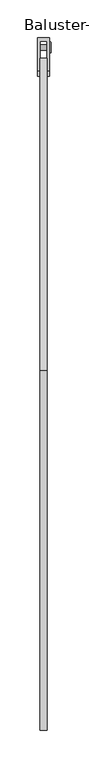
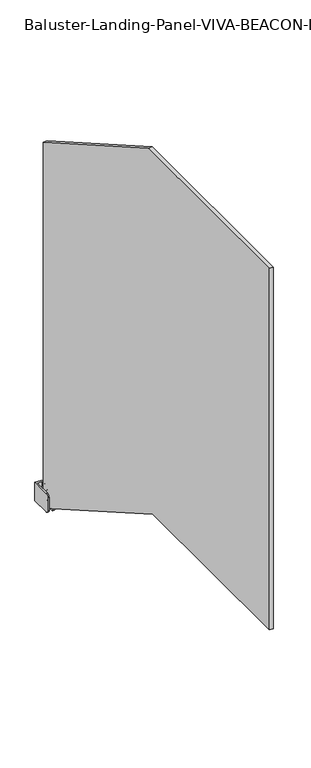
"""IFC4 building model written with IfcOpenShell, lengths in millimetres: railing geometry, Baluster-Landing-Panel-VIVA-BEACON-Lower : Standard_Glass."""

from ifc_helpers import new_model, si_unit, point, frame, origin, place, context, project, spatial, polyline, circle_curve, ellipse_curve, trimmed, outline, extrude, source, transform, mapped, element, save
from ifc_brep_helpers import plane_surface, cylinder_surface, revolved_surface, advanced_brep


def baluster_landing_panel_viva_beacon_lower_standard_glass_e261c89c(model_context):
    return source(origin(), model_context, "Body", "SolidModel", [
        advanced_brep(
        [(33.3375, 17.8996011, -21.377275), (46.0375, 17.8996011, -21.377275), (46.0375, 10.8087093, -21.377275), (33.3375, 10.8087093, -21.377275), (46.0375, 21.7619443, -21.377275), (46.0375, 6.9463661, -21.377275), (46.904612, 16.0102306, -21.377275), (33.3375, 16.0102306, -21.377275), (33.3375, 12.6980798, -21.377275), (46.904612, 12.6980798, -21.377275), (46.8723449, 21.7619443, -21.377275), (48.1536169, 20.4806723, -21.377275), (48.1536169, 8.2276382, -21.377275), (46.8723449, 6.9463661, -21.377275), (48.1536169, 18.6527508, -21.377275), (48.1536169, 10.0555597, -21.377275), (46.904612, 18.6527508, -21.377275), (46.904612, 10.0555597, -21.377275)],
        [
            (0, 1),
            (1, 2, circle_curve(frame((46.0375, 14.3541552, -21.377275), z_axis=(-1.0, 0.0, 0.0), x_axis=(0.0, -1.0, 0.0)), 3.5454459)),
            (2, 3),
            (3, 0, circle_curve(frame((33.3375, 14.3541552, -21.377275), z_axis=(1.0, 0.0, 0.0), x_axis=(0.0, -1.0, 0.0)), 3.5454459)),
            (2, 1, circle_curve(frame((46.0375, 14.3541552, -21.377275), z_axis=(-1.0, 0.0, 0.0), x_axis=(0.0, -1.0, 0.0)), 3.5454459)),
            (0, 3, circle_curve(frame((33.3375, 14.3541552, -21.377275), z_axis=(1.0, 0.0, 0.0), x_axis=(0.0, -1.0, 0.0)), 3.5454459)),
            (1, 4),
            (4, 5, circle_curve(frame((46.0375, 14.3541552, -21.377275), z_axis=(-1.0, 0.0, 0.0), x_axis=(0.0, -1.0, 0.0)), 7.4077891)),
            (5, 2),
            (5, 4, circle_curve(frame((46.0375, 14.3541552, -21.377275), z_axis=(-1.0, 0.0, 0.0), x_axis=(0.0, -1.0, 0.0)), 7.4077891)),
            (6, 7),
            (7, 8, circle_curve(frame((33.3375, 14.3541552, -21.377275), z_axis=(-1.0, 0.0, 0.0), x_axis=(0.0, -1.0, 0.0)), 1.6560754)),
            (8, 9),
            (9, 6, circle_curve(frame((46.904612, 14.3541552, -21.377275), z_axis=(1.0, 0.0, 0.0), x_axis=(0.0, -1.0, 0.0)), 1.6560754)),
            (8, 7, circle_curve(frame((33.3375, 14.3541552, -21.377275), z_axis=(-1.0, 0.0, 0.0), x_axis=(0.0, -1.0, 0.0)), 1.6560754)),
            (6, 9, circle_curve(frame((46.904612, 14.3541552, -21.377275), z_axis=(1.0, 0.0, 0.0), x_axis=(0.0, -1.0, 0.0)), 1.6560754)),
            (10, 11, circle_curve(frame((46.8723449, 20.4806723, -21.377275), z_axis=(0.0, 0.0, -1.0), x_axis=(0.0, 1.0, 0.0)), 1.281272)),
            (11, 12, circle_curve(frame((48.1536169, 14.3541552, -21.377275), z_axis=(-1.0, 0.0, 0.0), x_axis=(0.0, -1.0, 0.0)), 6.1265171)),
            (12, 13, circle_curve(frame((46.8723449, 8.2276382, -21.377275), z_axis=(0.0, 0.0, -1.0), x_axis=(0.0, -1.0, 0.0)), 1.281272)),
            (13, 10, circle_curve(frame((46.8723449, 14.3541552, -21.377275), z_axis=(1.0, 0.0, 0.0), x_axis=(0.0, -1.0, 0.0)), 7.4077891)),
            (12, 11, circle_curve(frame((48.1536169, 14.3541552, -21.377275), z_axis=(-1.0, 0.0, 0.0), x_axis=(0.0, -1.0, 0.0)), 6.1265171)),
            (10, 13, circle_curve(frame((46.8723449, 14.3541552, -21.377275), z_axis=(1.0, 0.0, 0.0), x_axis=(0.0, -1.0, 0.0)), 7.4077891)),
            (11, 14),
            (14, 15, circle_curve(frame((48.1536169, 14.3541552, -21.377275), z_axis=(-1.0, 0.0, 0.0), x_axis=(0.0, -1.0, 0.0)), 4.2985955)),
            (15, 12),
            (15, 14, circle_curve(frame((48.1536169, 14.3541552, -21.377275), z_axis=(-1.0, 0.0, 0.0), x_axis=(0.0, -1.0, 0.0)), 4.2985955)),
            (4, 10),
            (13, 5),
            (7, 0),
            (3, 8),
            (14, 16),
            (16, 17, circle_curve(frame((46.904612, 14.3541552, -21.377275), z_axis=(-1.0, 0.0, 0.0), x_axis=(0.0, -1.0, 0.0)), 4.2985955)),
            (17, 15),
            (17, 16, circle_curve(frame((46.904612, 14.3541552, -21.377275), z_axis=(-1.0, 0.0, 0.0), x_axis=(0.0, -1.0, 0.0)), 4.2985955)),
            (16, 6),
            (9, 17),
        ],
        [
            cylinder_surface(frame((42.5407669, 14.3541552, -21.377275), z_axis=(-1.0, 0.0, 0.0), x_axis=(0.0, -1.0, 0.0)), 3.5454459),
            plane_surface(frame((46.0375, 14.3541552, -21.377275), z_axis=(-1.0, 0.0, 0.0), x_axis=(0.0, -1.0, 0.0))),
            revolved_surface(polyline([(33.3375, 12.698079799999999, -21.377275), (46.904612, 12.698079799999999, -21.377275)]), (42.5407669, 14.3541552, -21.377275), (-1.0, 0.0, 0.0)),
            revolved_surface(trimmed(ellipse_curve(frame((46.8723449, 8.2276382, -21.377275), z_axis=(0.0, 0.0, -1.0), x_axis=(0.0, -1.0, 0.0)), 1.281272, 1.281272), [point((48.1536169, 8.2276382, -21.377275))], [point((46.8723449, 6.9463661, -21.377275))], True, "CARTESIAN"), (42.5407669, 14.3541552, -21.377275), (-1.0, 0.0, 0.0)),
            plane_surface(frame((48.1536169, 14.3541552, -21.377275), z_axis=(1.0, 0.0, 0.0), x_axis=(0.0, -1.0, 0.0))),
            cylinder_surface(frame((42.5407669, 14.3541552, -21.377275), z_axis=(-1.0, 0.0, 0.0), x_axis=(0.0, -1.0, 0.0)), 7.4077891),
            plane_surface(frame((33.3375, 14.3541552, -21.377275), z_axis=(-1.0, 0.0, 0.0), x_axis=(0.0, -1.0, 0.0))),
            revolved_surface(polyline([(46.904612, 10.0555597, -21.377275), (48.1536169, 10.0555597, -21.377275)]), (42.5407669, 14.3541552, -21.377275), (-1.0, 0.0, 0.0)),
            plane_surface(frame((46.904612, 14.3541552, -21.377275), z_axis=(1.0, 0.0, 0.0), x_axis=(0.0, -1.0, 0.0))),
        ],
        [
            (0, [[1, 2, 3, 4]]),
            (0, [[-3, 5, -1, 6]]),
            (1, [[7, 8, 9, -2]]),
            (1, [[-9, 10, -7, -5]]),
            (2, [[11, 12, 13, 14]]),
            (2, [[-13, 15, -11, 16]]),
            (3, [[17, 18, 19, 20]]),
            (3, [[-19, 21, -17, 22]]),
            (4, [[23, 24, 25, -18]]),
            (4, [[-25, 26, -23, -21]]),
            (5, [[27, -20, 28, -8]]),
            (5, [[-28, -22, -27, -10]]),
            (6, [[29, -4, 30, -12]]),
            (6, [[-30, -6, -29, -15]]),
            (7, [[31, 32, 33, -24]]),
            (7, [[-33, 34, -31, -26]]),
            (8, [[35, -14, 36, -32]]),
            (8, [[-36, -16, -35, -34]]),
        ],
    ),
        advanced_brep(
        [(33.3375, 17.8996011, -45.983525), (46.0375, 17.8996011, -45.983525), (46.0375, 10.8087093, -45.983525), (33.3375, 10.8087093, -45.983525), (46.0375, 21.7619443, -45.983525), (46.0375, 6.9463661, -45.983525), (46.904612, 16.0102306, -45.983525), (33.3375, 16.0102306, -45.983525), (33.3375, 12.6980798, -45.983525), (46.904612, 12.6980798, -45.983525), (46.8723449, 21.7619443, -45.983525), (48.1536169, 20.4806723, -45.983525), (48.1536169, 8.2276382, -45.983525), (46.8723449, 6.9463661, -45.983525), (48.1536169, 18.6527508, -45.983525), (48.1536169, 10.0555597, -45.983525), (46.904612, 18.6527508, -45.983525), (46.904612, 10.0555597, -45.983525)],
        [
            (0, 1),
            (1, 2, circle_curve(frame((46.0375, 14.3541552, -45.983525), z_axis=(-1.0, 0.0, 0.0), x_axis=(0.0, -1.0, 0.0)), 3.5454459)),
            (2, 3),
            (3, 0, circle_curve(frame((33.3375, 14.3541552, -45.983525), z_axis=(1.0, 0.0, 0.0), x_axis=(0.0, -1.0, 0.0)), 3.5454459)),
            (2, 1, circle_curve(frame((46.0375, 14.3541552, -45.983525), z_axis=(-1.0, 0.0, 0.0), x_axis=(0.0, -1.0, 0.0)), 3.5454459)),
            (0, 3, circle_curve(frame((33.3375, 14.3541552, -45.983525), z_axis=(1.0, 0.0, 0.0), x_axis=(0.0, -1.0, 0.0)), 3.5454459)),
            (1, 4),
            (4, 5, circle_curve(frame((46.0375, 14.3541552, -45.983525), z_axis=(-1.0, 0.0, 0.0), x_axis=(0.0, -1.0, 0.0)), 7.4077891)),
            (5, 2),
            (5, 4, circle_curve(frame((46.0375, 14.3541552, -45.983525), z_axis=(-1.0, 0.0, 0.0), x_axis=(0.0, -1.0, 0.0)), 7.4077891)),
            (6, 7),
            (7, 8, circle_curve(frame((33.3375, 14.3541552, -45.983525), z_axis=(-1.0, 0.0, 0.0), x_axis=(0.0, -1.0, 0.0)), 1.6560754)),
            (8, 9),
            (9, 6, circle_curve(frame((46.904612, 14.3541552, -45.983525), z_axis=(1.0, 0.0, 0.0), x_axis=(0.0, -1.0, 0.0)), 1.6560754)),
            (8, 7, circle_curve(frame((33.3375, 14.3541552, -45.983525), z_axis=(-1.0, 0.0, 0.0), x_axis=(0.0, -1.0, 0.0)), 1.6560754)),
            (6, 9, circle_curve(frame((46.904612, 14.3541552, -45.983525), z_axis=(1.0, 0.0, 0.0), x_axis=(0.0, -1.0, 0.0)), 1.6560754)),
            (10, 11, circle_curve(frame((46.8723449, 20.4806723, -45.983525), z_axis=(0.0, 0.0, -1.0), x_axis=(0.0, 1.0, 0.0)), 1.281272)),
            (11, 12, circle_curve(frame((48.1536169, 14.3541552, -45.983525), z_axis=(-1.0, 0.0, 0.0), x_axis=(0.0, -1.0, 0.0)), 6.1265171)),
            (12, 13, circle_curve(frame((46.8723449, 8.2276382, -45.983525), z_axis=(0.0, 0.0, -1.0), x_axis=(0.0, -1.0, 0.0)), 1.281272)),
            (13, 10, circle_curve(frame((46.8723449, 14.3541552, -45.983525), z_axis=(1.0, 0.0, 0.0), x_axis=(0.0, -1.0, 0.0)), 7.4077891)),
            (12, 11, circle_curve(frame((48.1536169, 14.3541552, -45.983525), z_axis=(-1.0, 0.0, 0.0), x_axis=(0.0, -1.0, 0.0)), 6.1265171)),
            (10, 13, circle_curve(frame((46.8723449, 14.3541552, -45.983525), z_axis=(1.0, 0.0, 0.0), x_axis=(0.0, -1.0, 0.0)), 7.4077891)),
            (11, 14),
            (14, 15, circle_curve(frame((48.1536169, 14.3541552, -45.983525), z_axis=(-1.0, 0.0, 0.0), x_axis=(0.0, -1.0, 0.0)), 4.2985955)),
            (15, 12),
            (15, 14, circle_curve(frame((48.1536169, 14.3541552, -45.983525), z_axis=(-1.0, 0.0, 0.0), x_axis=(0.0, -1.0, 0.0)), 4.2985955)),
            (7, 0),
            (3, 8),
            (4, 10),
            (13, 5),
            (14, 16),
            (16, 17, circle_curve(frame((46.904612, 14.3541552, -45.983525), z_axis=(-1.0, 0.0, 0.0), x_axis=(0.0, -1.0, 0.0)), 4.2985955)),
            (17, 15),
            (17, 16, circle_curve(frame((46.904612, 14.3541552, -45.983525), z_axis=(-1.0, 0.0, 0.0), x_axis=(0.0, -1.0, 0.0)), 4.2985955)),
            (16, 6),
            (9, 17),
        ],
        [
            cylinder_surface(frame((42.5407669, 14.3541552, -45.983525), z_axis=(-1.0, 0.0, 0.0), x_axis=(0.0, -1.0, 0.0)), 3.5454459),
            plane_surface(frame((46.0375, 14.3541552, -45.983525), z_axis=(-1.0, 0.0, 0.0), x_axis=(0.0, -1.0, 0.0))),
            revolved_surface(polyline([(33.3375, 12.698079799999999, -45.983525), (46.904612, 12.698079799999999, -45.983525)]), (42.5407669, 14.3541552, -45.983525), (-1.0, 0.0, 0.0)),
            revolved_surface(trimmed(ellipse_curve(frame((46.8723449, 8.2276382, -45.983525), z_axis=(0.0, 0.0, -1.0), x_axis=(0.0, -1.0, 0.0)), 1.281272, 1.281272), [point((48.1536169, 8.2276382, -45.983525))], [point((46.8723449, 6.9463661, -45.983525))], True, "CARTESIAN"), (42.5407669, 14.3541552, -45.983525), (-1.0, 0.0, 0.0)),
            plane_surface(frame((48.1536169, 14.3541552, -45.983525), z_axis=(1.0, 0.0, 0.0), x_axis=(0.0, -1.0, 0.0))),
            plane_surface(frame((33.3375, 14.3541552, -45.983525), z_axis=(-1.0, 0.0, 0.0), x_axis=(0.0, -1.0, 0.0))),
            cylinder_surface(frame((42.5407669, 14.3541552, -45.983525), z_axis=(-1.0, 0.0, 0.0), x_axis=(0.0, -1.0, 0.0)), 7.4077891),
            revolved_surface(polyline([(46.904612, 10.0555597, -45.983525), (48.1536169, 10.0555597, -45.983525)]), (42.5407669, 14.3541552, -45.983525), (-1.0, 0.0, 0.0)),
            plane_surface(frame((46.904612, 14.3541552, -45.983525), z_axis=(1.0, 0.0, 0.0), x_axis=(0.0, -1.0, 0.0))),
        ],
        [
            (0, [[1, 2, 3, 4]]),
            (0, [[-3, 5, -1, 6]]),
            (1, [[7, 8, 9, -2]]),
            (1, [[-9, 10, -7, -5]]),
            (2, [[11, 12, 13, 14]]),
            (2, [[-13, 15, -11, 16]]),
            (3, [[17, 18, 19, 20]]),
            (3, [[-19, 21, -17, 22]]),
            (4, [[23, 24, 25, -18]]),
            (4, [[-25, 26, -23, -21]]),
            (5, [[27, -4, 28, -12]]),
            (5, [[-28, -6, -27, -15]]),
            (6, [[29, -20, 30, -8]]),
            (6, [[-30, -22, -29, -10]]),
            (7, [[31, 32, 33, -24]]),
            (7, [[-33, 34, -31, -26]]),
            (8, [[35, -14, 36, -32]]),
            (8, [[-36, -16, -35, -34]]),
        ],
    ),
        extrude(outline(polyline([(18.4480835, -45.983525), (16.4011194, -49.5289709), (12.3071911, -49.5289709), (10.2602269, -45.983525), (12.3071911, -42.4380791), (16.4011194, -42.4380791), (18.4480835, -45.983525)])), frame((46.904612, 0.0, 0.0), z_axis=(1.0, 0.0, 0.0), x_axis=(0.0, 1.0, 0.0)), (0.0, 0.0, 1.0), 1.4969696),
        advanced_brep(
        [(46.0375, 26.9875, -11.4554), (46.0375, -17.4625, -11.4554), (46.0375, -23.8125, -17.8054), (46.0375, -23.8125, -49.5554), (46.0375, -17.4625, -55.9054), (46.0375, 26.9875, -55.9054), (30.1625, 26.9875, -11.4554), (30.1625, 26.9875, -55.9054), (30.1625, -17.4625, -55.9054), (30.1625, -23.8125, -49.5554), (30.1625, -23.8125, -17.8054), (30.1625, -17.4625, -11.4554), (42.8625, -17.4625, -55.9054), (42.8625, 22.2694196, -55.9054), (33.3375, 22.2694196, -55.9054), (33.3375, -17.4625, -55.9054), (42.8625, 22.2694196, -11.4554), (33.3375, 22.2694196, -11.4554), (42.8625, -23.8125, -49.5554), (42.8625, -23.8125, -17.8054), (42.8625, -17.4625, -11.4554), (33.3375, -17.4625, -11.4554), (33.3375, -23.8125, -17.8054), (33.3375, -23.8125, -49.5554)],
        [
            (0, 1),
            (1, 2, circle_curve(frame((46.0375, -17.4625, -17.8054), z_axis=(1.0, 0.0, 0.0), x_axis=(0.0, -1.0, 0.0)), 6.35)),
            (2, 3),
            (3, 4, circle_curve(frame((46.0375, -17.4625, -49.5554), z_axis=(1.0, 0.0, 0.0), x_axis=(0.0, -1.0, 0.0)), 6.35)),
            (4, 5),
            (5, 0),
            (6, 7),
            (7, 8),
            (8, 9, circle_curve(frame((30.1625, -17.4625, -49.5554), z_axis=(-1.0, 0.0, 0.0), x_axis=(0.0, -1.0, 0.0)), 6.35)),
            (9, 10),
            (10, 11, circle_curve(frame((30.1625, -17.4625, -17.8054), z_axis=(-1.0, 0.0, 0.0), x_axis=(0.0, -1.0, 0.0)), 6.35)),
            (11, 6),
            (5, 7),
            (6, 0),
            (4, 12),
            (12, 13),
            (13, 14),
            (14, 15),
            (15, 8),
            (13, 16),
            (16, 17),
            (17, 14),
            (12, 18, circle_curve(frame((42.8625, -17.4625, -49.5554), z_axis=(-1.0, 0.0, 0.0), x_axis=(0.0, -1.0, 0.0)), 6.35)),
            (18, 19),
            (19, 20, circle_curve(frame((42.8625, -17.4625, -17.8054), z_axis=(-1.0, 0.0, 0.0), x_axis=(0.0, -1.0, 0.0)), 6.35)),
            (20, 16),
            (17, 21),
            (21, 22, circle_curve(frame((33.3375, -17.4625, -17.8054), z_axis=(1.0, 0.0, 0.0), x_axis=(0.0, -1.0, 0.0)), 6.35)),
            (22, 23),
            (23, 15, circle_curve(frame((33.3375, -17.4625, -49.5554), z_axis=(1.0, 0.0, 0.0), x_axis=(0.0, -1.0, 0.0)), 6.35)),
            (23, 9),
            (3, 18),
            (22, 10),
            (2, 19),
            (21, 11),
            (1, 20),
        ],
        [
            plane_surface(frame((46.0375, 26.9875, -55.9054), z_axis=(1.0, 0.0, 0.0), x_axis=(0.0, 0.0, -1.0))),
            plane_surface(frame((30.1625, 26.9875, -55.9054), z_axis=(-1.0, 0.0, 0.0), x_axis=(0.0, 0.0, 1.0))),
            plane_surface(frame((46.0375, 26.9875, -11.4554), z_axis=(0.0, 1.0, 0.0), x_axis=(-1.0, 0.0, 0.0))),
            plane_surface(frame((46.0375, 26.9875, -55.9054), z_axis=(0.0, 0.0, -1.0), x_axis=(-1.0, 0.0, 0.0))),
            plane_surface(frame((33.3375, 22.2694196, 1.2446), z_axis=(0.0, -1.0, 0.0), x_axis=(0.0, 0.0, -1.0))),
            plane_surface(frame((42.8625, 22.2694196, 1.2446), z_axis=(-1.0, 0.0, 0.0), x_axis=(0.0, 0.0, -1.0))),
            plane_surface(frame((33.3375, -36.5125, 1.2446), z_axis=(1.0, 0.0, 0.0), x_axis=(0.0, 0.0, -1.0))),
            cylinder_surface(frame((30.1625, -17.4625, -49.5554), z_axis=(1.0, 0.0, 0.0), x_axis=(0.0, -1.0, 0.0)), 6.35),
            plane_surface(frame((46.0375, -23.8125, -49.5554), z_axis=(0.0, -1.0, 0.0), x_axis=(-1.0, 0.0, 0.0))),
            cylinder_surface(frame((30.1625, -17.4625, -17.8054), z_axis=(1.0, 0.0, 0.0), x_axis=(0.0, -1.0, 0.0)), 6.35),
            plane_surface(frame((46.0375, -17.4625, -11.4554), z_axis=(0.0, 0.0, 1.0), x_axis=(-1.0, 0.0, 0.0))),
        ],
        [
            (0, [[1, 2, 3, 4, 5, 6]]),
            (1, [[7, 8, 9, 10, 11, 12]]),
            (2, [[13, -7, 14, -6]]),
            (3, [[15, 16, 17, 18, 19, -8, -13, -5]]),
            (4, [[-17, 20, 21, 22]]),
            (5, [[-16, 23, 24, 25, 26, -20]]),
            (6, [[27, 28, 29, 30, -18, -22]]),
            (7, [[-19, -30, 31, -9]]),
            (7, [[32, -23, -15, -4]]),
            (8, [[-31, -29, 33, -10]]),
            (8, [[34, -24, -32, -3]]),
            (9, [[-33, -28, 35, -11]]),
            (9, [[36, -25, -34, -2]]),
            (10, [[-14, -12, -35, -27, -21, -26, -36, -1]]),
        ],
    ),
        extrude(outline(polyline([(-414.401, 1059.4086), (0.0, 822.6548592), (0.0, -58.1914), (-432.8508022, 189.103), (-891.667, 189.103), (-891.667, 1059.4086), (-414.401, 1059.4086)])), frame((33.3375, 0.0, 0.0), z_axis=(1.0, 0.0, 0.0), x_axis=(0.0, 1.0, 0.0)), (0.0, 0.0, 1.0), 9.525),
    ])


if __name__ == "__main__":
    model = new_model("IFC4")
    model_context = context("Model", 3, world=origin())
    ifc_project = project(units=[si_unit("LENGTHUNIT", "METRE", prefix="MILLI")], contexts=[model_context])
    site = spatial("IfcSite", under=ifc_project)
    building = spatial("IfcBuilding", under=site)
    placement = place(None, origin())
    baluster_landing_panel_viva_beacon_lower_standard_glass_shape = baluster_landing_panel_viva_beacon_lower_standard_glass_e261c89c(model_context)
    element("IfcRailing", 1, ObjectType="Baluster-Landing-Panel-VIVA-BEACON-Lower : Standard_Glass", at=placement, inside=building, context=model_context, shape_type="MappedRepresentation", body=[
        mapped(baluster_landing_panel_viva_beacon_lower_standard_glass_shape, transform((0.0, 0.0, 0.0), x_axis=(1.0, 0.0, 0.0), y_axis=(0.0, 1.0, 0.0), z_axis=(0.0, 0.0, 1.0))),
    ])
    save(model, "model.ifc")
